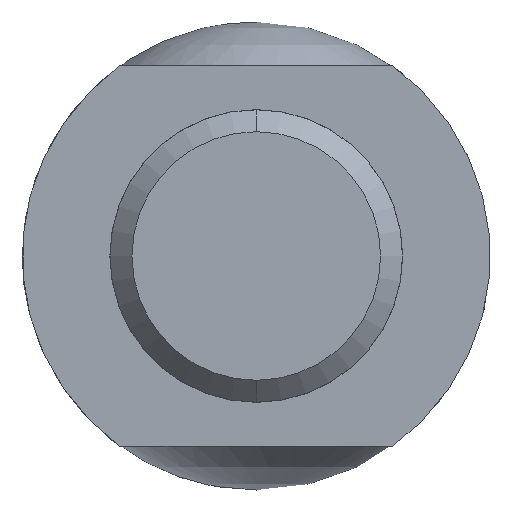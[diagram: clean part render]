
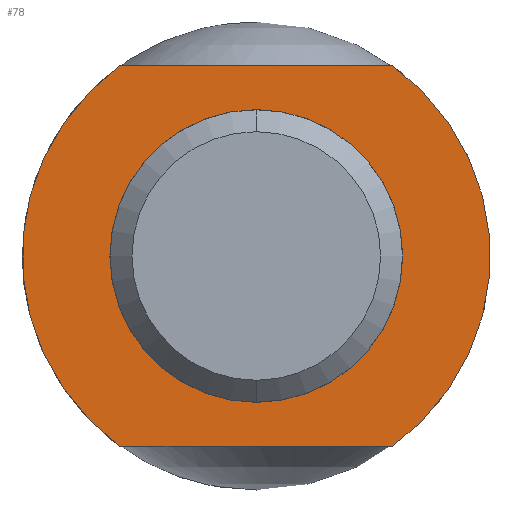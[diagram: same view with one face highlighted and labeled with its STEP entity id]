
A CAD part, front view. The second image highlights one B-rep face of the part: STEP entity #78.
In plain terms, the highlighted planar face has unit normal (0, -1, 0).
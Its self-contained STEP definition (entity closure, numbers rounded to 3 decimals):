
#5 = VERTEX_POINT ( 'NONE', #127 ) ;
#7 = EDGE_CURVE ( 'NONE', #5, #8, #126, .T. ) ;
#8 = VERTEX_POINT ( 'NONE', #121 ) ;
#37 = ORIENTED_EDGE ( 'NONE', *, *, #69, .T. ) ;
#38 = VERTEX_POINT ( 'NONE', #134 ) ;
#41 = EDGE_CURVE ( 'NONE', #38, #76, #252, .T. ) ;
#49 = EDGE_LOOP ( 'NONE', ( #72, #81 ) ) ;
#50 = ORIENTED_EDGE ( 'NONE', *, *, #41, .F. ) ;
#51 = ORIENTED_EDGE ( 'NONE', *, *, #52, .T. ) ;
#52 = EDGE_CURVE ( 'NONE', #38, #8, #356, .T. ) ;
#53 = ORIENTED_EDGE ( 'NONE', *, *, #7, .F. ) ;
#69 = EDGE_CURVE ( 'NONE', #5, #76, #296, .T. ) ;
#72 = ORIENTED_EDGE ( 'NONE', *, *, #641, .T. ) ;
#76 = VERTEX_POINT ( 'NONE', #320 ) ;
#78 = ADVANCED_FACE ( 'NONE', ( #319, #313 ), #312, .F. ) ;
#79 = EDGE_CURVE ( 'NONE', #639, #642, #341, .T. ) ;
#80 = EDGE_LOOP ( 'NONE', ( #37, #50, #51, #53 ) ) ;
#81 = ORIENTED_EDGE ( 'NONE', *, *, #79, .T. ) ;
#121 = CARTESIAN_POINT ( 'NONE',  ( -4.664, 0., 6.5 ) ) ;
#122 = DIRECTION ( 'NONE',  ( 0., 0., 1. ) ) ;
#123 = DIRECTION ( 'NONE',  ( 0., 1., 0. ) ) ;
#124 = CARTESIAN_POINT ( 'NONE',  ( 0., 0., 0. ) ) ;
#125 = AXIS2_PLACEMENT_3D ( 'NONE', #124, #123, #122 ) ;
#126 = CIRCLE ( 'NONE', #125, 8. ) ;
#127 = CARTESIAN_POINT ( 'NONE',  ( -4.664, 0., -6.5 ) ) ;
#134 = CARTESIAN_POINT ( 'NONE',  ( 4.664, 0., 6.5 ) ) ;
#249 = DIRECTION ( 'NONE',  ( 0., 1., 0. ) ) ;
#250 = CARTESIAN_POINT ( 'NONE',  ( 0., 0., 0. ) ) ;
#251 = AXIS2_PLACEMENT_3D ( 'NONE', #250, #249, #350 ) ;
#252 = CIRCLE ( 'NONE', #251, 8. ) ;
#277 = DIRECTION ( 'NONE',  ( 1., 0., 0. ) ) ;
#278 = VECTOR ( 'NONE', #277, 1000. ) ;
#279 = CARTESIAN_POINT ( 'NONE',  ( -8., 0., -6.5 ) ) ;
#296 = LINE ( 'NONE', #279, #278 ) ;
#308 = DIRECTION ( 'NONE',  ( 0., 0., 1. ) ) ;
#309 = DIRECTION ( 'NONE',  ( 0., 1., 0. ) ) ;
#310 = CARTESIAN_POINT ( 'NONE',  ( 0., 0., 0. ) ) ;
#311 = AXIS2_PLACEMENT_3D ( 'NONE', #310, #309, #308 ) ;
#312 = PLANE ( 'NONE',  #311 ) ;
#313 = FACE_OUTER_BOUND ( 'NONE', #80, .T. ) ;
#319 = FACE_BOUND ( 'NONE', #49, .T. ) ;
#320 = CARTESIAN_POINT ( 'NONE',  ( 4.664, 0., -6.5 ) ) ;
#337 = DIRECTION ( 'NONE',  ( 0., 0., 1. ) ) ;
#338 = DIRECTION ( 'NONE',  ( 0., 1., 0. ) ) ;
#339 = CARTESIAN_POINT ( 'NONE',  ( 0., 0., 0. ) ) ;
#340 = AXIS2_PLACEMENT_3D ( 'NONE', #339, #338, #337 ) ;
#341 = CIRCLE ( 'NONE', #340, 5.005 ) ;
#350 = DIRECTION ( 'NONE',  ( 0., 0., 1. ) ) ;
#353 = DIRECTION ( 'NONE',  ( -1., 0., 0. ) ) ;
#354 = VECTOR ( 'NONE', #353, 1000. ) ;
#355 = CARTESIAN_POINT ( 'NONE',  ( -8., 0., 6.5 ) ) ;
#356 = LINE ( 'NONE', #355, #354 ) ;
#399 = AXIS2_PLACEMENT_3D ( 'NONE', #400, #407, #406 ) ;
#400 = CARTESIAN_POINT ( 'NONE',  ( 0., 0., 0. ) ) ;
#402 = CIRCLE ( 'NONE', #399, 5.005 ) ;
#406 = DIRECTION ( 'NONE',  ( 0., 0., 1. ) ) ;
#407 = DIRECTION ( 'NONE',  ( 0., 1., 0. ) ) ;
#473 = CARTESIAN_POINT ( 'NONE',  ( 0., 0., -5.005 ) ) ;
#498 = CARTESIAN_POINT ( 'NONE',  ( 0., 0., 5.005 ) ) ;
#639 = VERTEX_POINT ( 'NONE', #473 ) ;
#641 = EDGE_CURVE ( 'NONE', #642, #639, #402, .T. ) ;
#642 = VERTEX_POINT ( 'NONE', #498 ) ;
